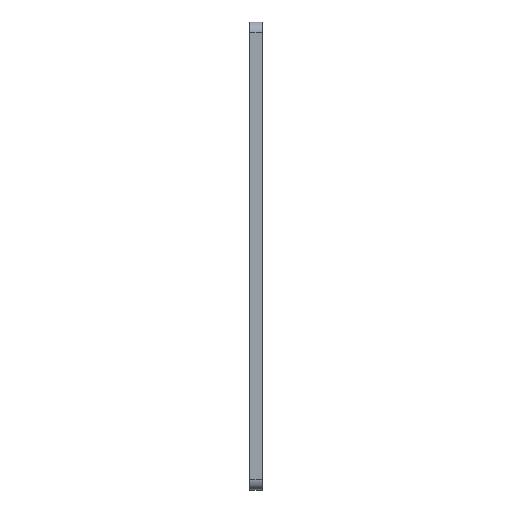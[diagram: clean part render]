
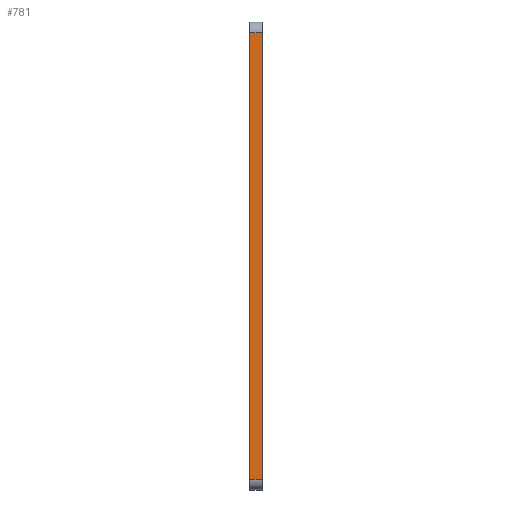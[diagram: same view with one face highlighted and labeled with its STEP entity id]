
A CAD part, left-side view. The second image highlights one B-rep face of the part: STEP entity #781.
In plain terms, the highlighted planar face has unit normal (-1, 0, 0).
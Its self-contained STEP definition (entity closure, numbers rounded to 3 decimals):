
#16 = CARTESIAN_POINT ( 'NONE',  ( -23., 0., 119.634 ) ) ;
#36 = AXIS2_PLACEMENT_3D ( 'NONE', #140, #677, #328 ) ;
#75 = ORIENTED_EDGE ( 'NONE', *, *, #659, .F. ) ;
#80 = CARTESIAN_POINT ( 'NONE',  ( -23., 0., 119.634 ) ) ;
#140 = CARTESIAN_POINT ( 'NONE',  ( -23., 4., 119.634 ) ) ;
#157 = LINE ( 'NONE', #80, #790 ) ;
#183 = CARTESIAN_POINT ( 'NONE',  ( -23., 4., -19.634 ) ) ;
#195 = VERTEX_POINT ( 'NONE', #183 ) ;
#197 = DIRECTION ( 'NONE',  ( 0., 0., -1. ) ) ;
#235 = VECTOR ( 'NONE', #695, 1000. ) ;
#260 = EDGE_CURVE ( 'NONE', #195, #325, #512, .T. ) ;
#267 = PLANE ( 'NONE',  #36 ) ;
#284 = VERTEX_POINT ( 'NONE', #527 ) ;
#325 = VERTEX_POINT ( 'NONE', #396 ) ;
#328 = DIRECTION ( 'NONE',  ( 0., 0., 1. ) ) ;
#339 = VECTOR ( 'NONE', #197, 1000. ) ;
#345 = DIRECTION ( 'NONE',  ( 0., -1., 0. ) ) ;
#353 = VECTOR ( 'NONE', #345, 1000. ) ;
#396 = CARTESIAN_POINT ( 'NONE',  ( -23., 0., -19.634 ) ) ;
#398 = LINE ( 'NONE', #519, #235 ) ;
#410 = ORIENTED_EDGE ( 'NONE', *, *, #260, .T. ) ;
#446 = EDGE_LOOP ( 'NONE', ( #75, #621, #646, #410 ) ) ;
#489 = CARTESIAN_POINT ( 'NONE',  ( -23., 4., -19.634 ) ) ;
#497 = LINE ( 'NONE', #570, #339 ) ;
#503 = EDGE_CURVE ( 'NONE', #284, #729, #398, .T. ) ;
#512 = LINE ( 'NONE', #489, #353 ) ;
#519 = CARTESIAN_POINT ( 'NONE',  ( -23., 4., 119.634 ) ) ;
#527 = CARTESIAN_POINT ( 'NONE',  ( -23., 4., 119.634 ) ) ;
#569 = FACE_OUTER_BOUND ( 'NONE', #446, .T. ) ;
#570 = CARTESIAN_POINT ( 'NONE',  ( -23., 4., 119.634 ) ) ;
#621 = ORIENTED_EDGE ( 'NONE', *, *, #503, .F. ) ;
#627 = EDGE_CURVE ( 'NONE', #284, #195, #497, .T. ) ;
#646 = ORIENTED_EDGE ( 'NONE', *, *, #627, .T. ) ;
#659 = EDGE_CURVE ( 'NONE', #729, #325, #157, .T. ) ;
#677 = DIRECTION ( 'NONE',  ( -1., 0., 0. ) ) ;
#688 = DIRECTION ( 'NONE',  ( 0., 0., -1. ) ) ;
#695 = DIRECTION ( 'NONE',  ( 0., -1., 0. ) ) ;
#729 = VERTEX_POINT ( 'NONE', #16 ) ;
#781 = ADVANCED_FACE ( 'NONE', ( #569 ), #267, .T. ) ;
#790 = VECTOR ( 'NONE', #688, 1000. ) ;
